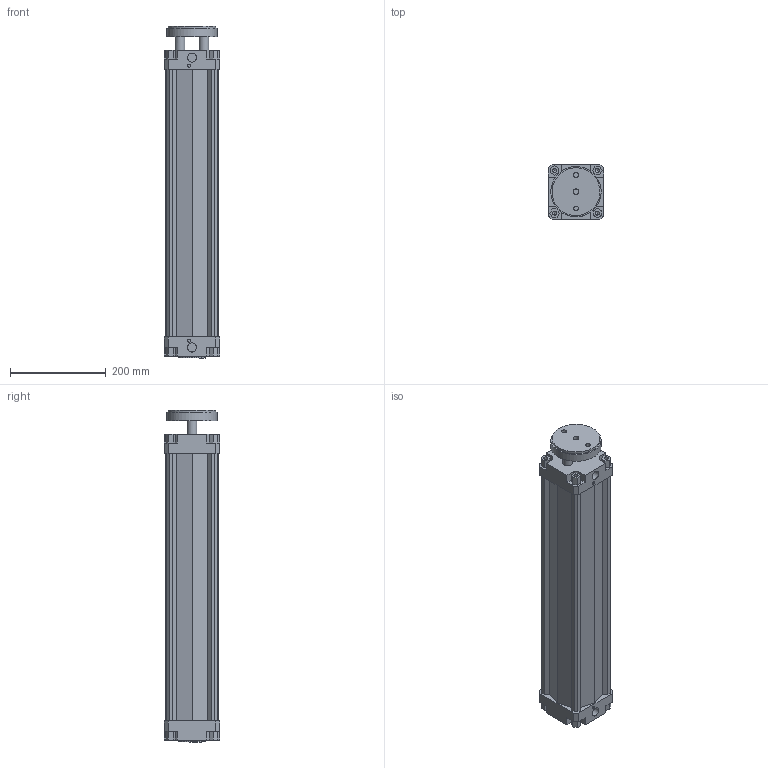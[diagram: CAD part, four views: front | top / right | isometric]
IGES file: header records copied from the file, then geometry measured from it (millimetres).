
Global section: file name: 132#_100_0500_01; native system: Autodesk Inventor 2014; preprocessor: unknown; author: A. Manieri; date: 20161006.163823; units: millimetre
Bounding box: 115 x 115 x 693 mm (x, y, z)
Volume: 3334720.9 mm3; surface area: 659321.7 mm2
Topology: 2 solids, 2 shells, 180 faces, 491 edges, 335 vertices
Faces by surface type: bspline 180
